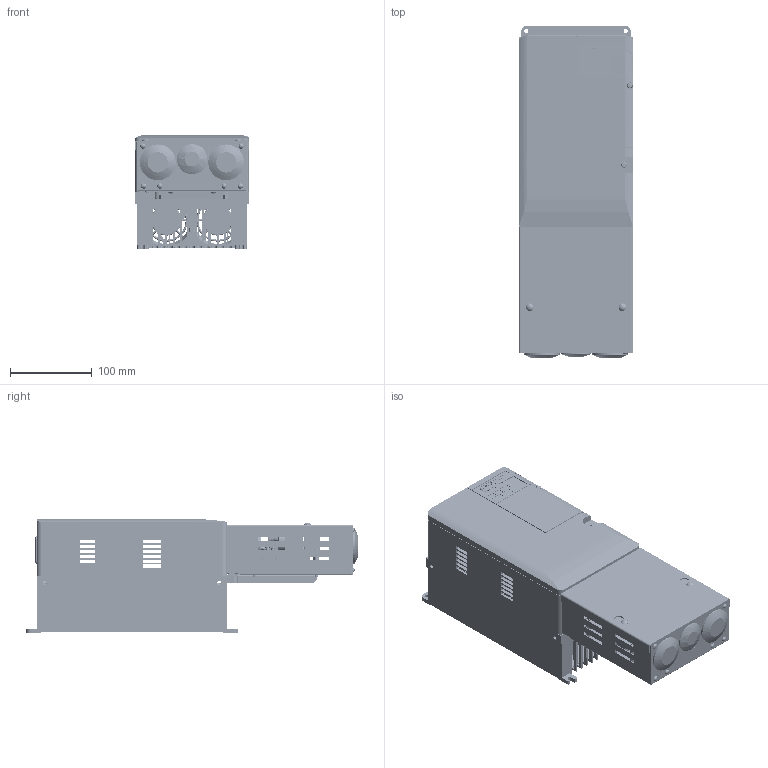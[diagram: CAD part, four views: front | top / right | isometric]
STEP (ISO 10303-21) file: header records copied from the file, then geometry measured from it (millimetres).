
FILE_DESCRIPTION((''),'2;1');
FILE_NAME('VU4A0018EAA_ASM','2010-01-27T',('jmattas'),(''),'PRO/ENGINEER BY PARAMETRIC TECHNOLOGY CORPORATION, 2009380','PRO/ENGINEER BY PARAMETRIC TECHNOLOGY CORPORATION, 2009380','');
FILE_SCHEMA(('CONFIG_CONTROL_DESIGN'));
Products named in the file (11): VU4A0018EAA_BASE; VU4A0018EAA_COVER1; VU4A0018EAA_COVER2; VU4A0018EAA_COVER3; VU4A0018EAA_COVER4; VU4A0018EAA_COVER5; VU4A0018EAA_COVER6; VU4A0018EAA_COVER7; VU4A0018EAA_GROMMET1; VU4A0018EAA_GROMMET2; VU4A0018EAA_ASM
Assembly tree (11 placements, depth 2):
  VU4A0018EAA_ASM
    VU4A0018EAA_BASE
    VU4A0018EAA_COVER1
    VU4A0018EAA_COVER2
    VU4A0018EAA_COVER3
    VU4A0018EAA_COVER4
    VU4A0018EAA_COVER5
    VU4A0018EAA_COVER6
    VU4A0018EAA_COVER7
    VU4A0018EAA_GROMMET1
    VU4A0018EAA_GROMMET2  x2
Bounding box: 140 x 407.19 x 140.35 mm (x, y, z)
Volume: 433422.9 mm3; surface area: 954592.1 mm2
Topology: 10 solids, 14 shells, 6523 faces, 18322 edges, 11786 vertices
Faces by surface type: plane 4079, cylinder 1517, cone 238, torus 228, sphere 191, extrusion 136, bspline 134
Entity records: 250053 total; most frequent: CARTESIAN_POINT 81715, ORIENTED_EDGE 36210, DIRECTION 33486, EDGE_CURVE 18111, VECTOR 12154, LINE 12018, VERTEX_POINT 11766, AXIS2_PLACEMENT_3D 10666
